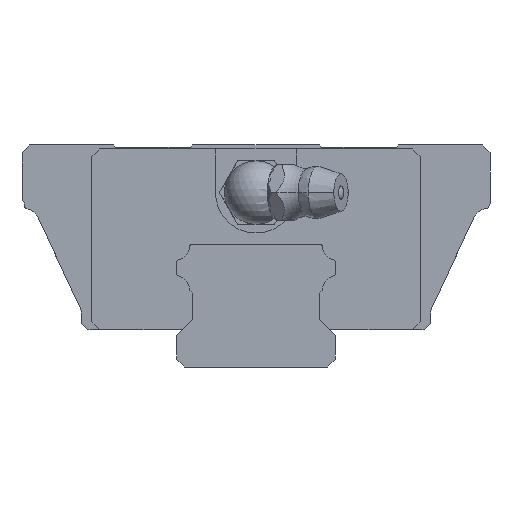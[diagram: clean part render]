
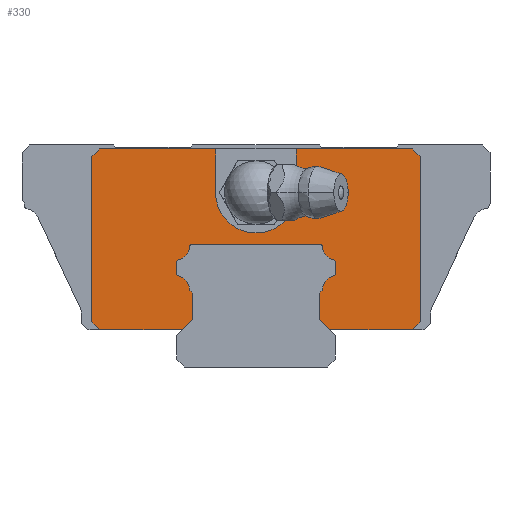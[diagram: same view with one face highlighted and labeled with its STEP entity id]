
A CAD part, front view. The second image highlights one B-rep face of the part: STEP entity #330.
In plain terms, the highlighted planar face has unit normal (0, -1, 0).
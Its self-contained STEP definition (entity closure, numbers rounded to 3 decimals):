
#330=ADVANCED_FACE('',(#759),#760,.T.);
#759=FACE_OUTER_BOUND('',#1288,.T.);
#760=PLANE('',#1289);
#1288=EDGE_LOOP('',(#2883,#2884,#2885,#2886,#2887,#2888,#2889,#2890,#2891,#2892,#2893,#2894,#2895,#2896,#2897,#2898,#2899,#2900,#2901,#2902,#2903,#2904,#2905,#2906,#2907,#2908,#2909,#2910,#2911,#2912,#2913,#2914,#2915));
#1289=AXIS2_PLACEMENT_3D('',#2916,#2917,#2918);
#2883=ORIENTED_EDGE('',*,*,#4089,.F.);
#2884=ORIENTED_EDGE('',*,*,#4074,.F.);
#2885=ORIENTED_EDGE('',*,*,#3825,.F.);
#2886=ORIENTED_EDGE('',*,*,#3878,.F.);
#2887=ORIENTED_EDGE('',*,*,#3998,.F.);
#2888=ORIENTED_EDGE('',*,*,#3963,.F.);
#2889=ORIENTED_EDGE('',*,*,#3960,.F.);
#2890=ORIENTED_EDGE('',*,*,#4055,.F.);
#2891=ORIENTED_EDGE('',*,*,#4094,.F.);
#2892=ORIENTED_EDGE('',*,*,#4095,.F.);
#2893=ORIENTED_EDGE('',*,*,#3864,.F.);
#2894=ORIENTED_EDGE('',*,*,#4052,.F.);
#2895=ORIENTED_EDGE('',*,*,#3780,.F.);
#2896=ORIENTED_EDGE('',*,*,#3806,.F.);
#2897=ORIENTED_EDGE('',*,*,#4057,.F.);
#2898=ORIENTED_EDGE('',*,*,#3829,.F.);
#2899=ORIENTED_EDGE('',*,*,#3984,.F.);
#2900=ORIENTED_EDGE('',*,*,#3846,.F.);
#2901=ORIENTED_EDGE('',*,*,#3814,.F.);
#2902=ORIENTED_EDGE('',*,*,#3823,.F.);
#2903=ORIENTED_EDGE('',*,*,#3870,.F.);
#2904=ORIENTED_EDGE('',*,*,#3949,.F.);
#2905=ORIENTED_EDGE('',*,*,#4096,.F.);
#2906=ORIENTED_EDGE('',*,*,#3956,.T.);
#2907=ORIENTED_EDGE('',*,*,#4067,.T.);
#2908=ORIENTED_EDGE('',*,*,#3659,.T.);
#2909=ORIENTED_EDGE('',*,*,#4030,.T.);
#2910=ORIENTED_EDGE('',*,*,#4097,.F.);
#2911=ORIENTED_EDGE('',*,*,#4040,.F.);
#2912=ORIENTED_EDGE('',*,*,#4090,.F.);
#2913=ORIENTED_EDGE('',*,*,#3981,.F.);
#2914=ORIENTED_EDGE('',*,*,#4014,.F.);
#2915=ORIENTED_EDGE('',*,*,#4070,.F.);
#2916=CARTESIAN_POINT('',(0.0,-19.6,22.0));
#2917=DIRECTION('',(0.0,-1.0,0.0));
#2918=DIRECTION('',(0.0,0.0,-1.0));
#3659=EDGE_CURVE('',#4352,#4356,#4358,.T.);
#3780=EDGE_CURVE('',#4589,#4591,#4592,.T.);
#3806=EDGE_CURVE('',#4630,#4589,#4632,.T.);
#3814=EDGE_CURVE('',#4641,#4643,#4644,.T.);
#3823=EDGE_CURVE('',#4658,#4641,#4660,.T.);
#3825=EDGE_CURVE('',#4662,#4664,#4665,.T.);
#3829=EDGE_CURVE('',#4670,#4672,#4673,.T.);
#3846=EDGE_CURVE('',#4643,#4698,#4699,.T.);
#3864=EDGE_CURVE('',#4729,#4731,#4732,.T.);
#3870=EDGE_CURVE('',#4739,#4658,#4741,.T.);
#3878=EDGE_CURVE('',#4752,#4662,#4754,.T.);
#3949=EDGE_CURVE('',#4879,#4739,#4881,.T.);
#3956=EDGE_CURVE('',#4891,#4889,#4892,.T.);
#3960=EDGE_CURVE('',#4896,#4898,#4899,.T.);
#3963=EDGE_CURVE('',#4898,#4903,#4904,.T.);
#3981=EDGE_CURVE('',#4928,#4926,#4930,.T.);
#3984=EDGE_CURVE('',#4698,#4670,#4933,.T.);
#3998=EDGE_CURVE('',#4903,#4752,#4950,.T.);
#4014=EDGE_CURVE('',#4969,#4928,#4971,.T.);
#4030=EDGE_CURVE('',#4356,#4991,#4993,.T.);
#4040=EDGE_CURVE('',#5006,#5004,#5008,.T.);
#4052=EDGE_CURVE('',#4591,#4729,#5026,.T.);
#4055=EDGE_CURVE('',#5029,#4896,#5031,.T.);
#4057=EDGE_CURVE('',#4672,#4630,#5033,.T.);
#4067=EDGE_CURVE('',#4889,#4352,#5045,.T.);
#4070=EDGE_CURVE('',#5048,#4969,#5050,.T.);
#4074=EDGE_CURVE('',#4664,#5054,#5055,.T.);
#4089=EDGE_CURVE('',#5054,#5048,#5073,.T.);
#4090=EDGE_CURVE('',#4926,#5006,#5074,.T.);
#4094=EDGE_CURVE('',#5077,#5029,#5079,.T.);
#4095=EDGE_CURVE('',#4731,#5077,#5080,.T.);
#4096=EDGE_CURVE('',#4891,#4879,#5081,.T.);
#4097=EDGE_CURVE('',#5004,#4991,#5082,.T.);
#4352=VERTEX_POINT('',#5482);
#4356=VERTEX_POINT('',#5487);
#4358=CIRCLE('',#5490,5.1);
#4589=VERTEX_POINT('',#5811);
#4591=VERTEX_POINT('',#5814);
#4592=LINE('',#5815,#5816);
#4630=VERTEX_POINT('',#5872);
#4632=CIRCLE('',#5875,0.3);
#4641=VERTEX_POINT('',#5887);
#4643=VERTEX_POINT('',#5890);
#4644=LINE('',#5891,#5892);
#4658=VERTEX_POINT('',#5912);
#4660=LINE('',#5915,#5916);
#4662=VERTEX_POINT('',#5918);
#4664=VERTEX_POINT('',#5921);
#4665=CIRCLE('',#5922,1.9);
#4670=VERTEX_POINT('',#5928);
#4672=VERTEX_POINT('',#5931);
#4673=LINE('',#5932,#5933);
#4698=VERTEX_POINT('',#5965);
#4699=LINE('',#5966,#5967);
#4729=VERTEX_POINT('',#6014);
#4731=VERTEX_POINT('',#6017);
#4732=CIRCLE('',#6018,1.9);
#4739=VERTEX_POINT('',#6027);
#4741=LINE('',#6030,#6031);
#4752=VERTEX_POINT('',#6044);
#4754=CIRCLE('',#6047,0.3);
#4879=VERTEX_POINT('',#6224);
#4881=LINE('',#6227,#6228);
#4889=VERTEX_POINT('',#6241);
#4891=VERTEX_POINT('',#6244);
#4892=LINE('',#6245,#6246);
#4896=VERTEX_POINT('',#6252);
#4898=VERTEX_POINT('',#6255);
#4899=CIRCLE('',#6256,1.9);
#4903=VERTEX_POINT('',#6261);
#4904=CIRCLE('',#6262,0.3);
#4926=VERTEX_POINT('',#6295);
#4928=VERTEX_POINT('',#6298);
#4930=LINE('',#6301,#6302);
#4933=LINE('',#6307,#6308);
#4950=LINE('',#6330,#6331);
#4969=VERTEX_POINT('',#6360);
#4971=LINE('',#6363,#6364);
#4991=VERTEX_POINT('',#6404);
#4993=LINE('',#6407,#6408);
#5004=VERTEX_POINT('',#6425);
#5006=VERTEX_POINT('',#6428);
#5008=LINE('',#6431,#6432);
#5026=CIRCLE('',#6457,0.3);
#5029=VERTEX_POINT('',#6460);
#5031=CIRCLE('',#6463,0.3);
#5033=CIRCLE('',#6465,1.9);
#5045=CIRCLE('',#6481,5.1);
#5048=VERTEX_POINT('',#6485);
#5050=LINE('',#6488,#6489);
#5054=VERTEX_POINT('',#6495);
#5055=LINE('',#6496,#6497);
#5073=LINE('',#6524,#6525);
#5074=LINE('',#6526,#6527);
#5077=VERTEX_POINT('',#6531);
#5079=LINE('',#6534,#6535);
#5080=CIRCLE('',#6536,0.3);
#5081=LINE('',#6537,#6538);
#5082=LINE('',#6539,#6540);
#5482=CARTESIAN_POINT('',(0.,-19.6,16.9));
#5487=CARTESIAN_POINT('',(-5.1,-19.6,22.0));
#5490=AXIS2_PLACEMENT_3D('',#7200,#7201,#7202);
#5811=CARTESIAN_POINT('',(10.0,-19.6,11.781));
#5814=CARTESIAN_POINT('',(10.0,-19.6,13.219));
#5815=CARTESIAN_POINT('',(10.0,-19.6,22.0));
#5816=VECTOR('',#7426,1000.0);
#5872=CARTESIAN_POINT('',(9.775,-19.6,11.49));
#5875=AXIS2_PLACEMENT_3D('',#7479,#7480,#7481);
#5887=CARTESIAN_POINT('',(19.7,-19.6,4.7));
#5890=CARTESIAN_POINT('',(9.3,-19.6,4.7));
#5891=CARTESIAN_POINT('',(19.7,-19.6,4.7));
#5892=VECTOR('',#7495,1000.0);
#5912=CARTESIAN_POINT('',(20.7,-19.6,5.7));
#5915=CARTESIAN_POINT('',(20.7,-19.6,5.7));
#5916=VECTOR('',#7506,1000.0);
#5918=CARTESIAN_POINT('',(-9.775,-19.6,11.49));
#5921=CARTESIAN_POINT('',(-8.349,-19.6,9.649));
#5922=AXIS2_PLACEMENT_3D('',#7508,#7509,#7510);
#5928=CARTESIAN_POINT('',(8.0,-19.6,9.3));
#5931=CARTESIAN_POINT('',(8.349,-19.6,9.649));
#5932=CARTESIAN_POINT('',(10.35,-19.6,11.65));
#5933=VECTOR('',#7516,1000.0);
#5965=CARTESIAN_POINT('',(8.0,-19.6,6.));
#5966=CARTESIAN_POINT('',(-4.,-19.6,18.));
#5967=VECTOR('',#7551,1000.0);
#6014=CARTESIAN_POINT('',(9.775,-19.6,13.51));
#6017=CARTESIAN_POINT('',(8.354,-19.6,15.22));
#6018=AXIS2_PLACEMENT_3D('',#7576,#7577,#7578);
#6027=CARTESIAN_POINT('',(20.7,-19.6,26.5));
#6030=CARTESIAN_POINT('',(20.7,-19.6,26.5));
#6031=VECTOR('',#7588,1000.0);
#6044=CARTESIAN_POINT('',(-10.0,-19.6,11.781));
#6047=AXIS2_PLACEMENT_3D('',#7604,#7605,#7606);
#6224=CARTESIAN_POINT('',(19.7,-19.6,27.5));
#6227=CARTESIAN_POINT('',(19.7,-19.6,27.5));
#6228=VECTOR('',#7711,1000.0);
#6241=CARTESIAN_POINT('',(5.1,-19.6,22.0));
#6244=CARTESIAN_POINT('',(5.1,-19.6,27.5));
#6245=CARTESIAN_POINT('',(5.1,-19.6,27.5));
#6246=VECTOR('',#7718,1000.0);
#6252=CARTESIAN_POINT('',(-8.354,-19.6,15.22));
#6255=CARTESIAN_POINT('',(-9.775,-19.6,13.51));
#6256=AXIS2_PLACEMENT_3D('',#7722,#7723,#7724);
#6261=CARTESIAN_POINT('',(-10.0,-19.6,13.219));
#6262=AXIS2_PLACEMENT_3D('',#7729,#7730,#7731);
#6295=CARTESIAN_POINT('',(-20.7,-19.6,5.7));
#6298=CARTESIAN_POINT('',(-19.7,-19.6,4.7));
#6301=CARTESIAN_POINT('',(-19.7,-19.6,4.7));
#6302=VECTOR('',#7757,1000.0);
#6307=CARTESIAN_POINT('',(8.0,-19.6,22.0));
#6308=VECTOR('',#7760,1000.0);
#6330=CARTESIAN_POINT('',(-10.0,-19.6,22.0));
#6331=VECTOR('',#7790,1000.0);
#6360=CARTESIAN_POINT('',(-9.3,-19.6,4.7));
#6363=CARTESIAN_POINT('',(19.7,-19.6,4.7));
#6364=VECTOR('',#7814,1000.0);
#6404=CARTESIAN_POINT('',(-5.1,-19.6,27.5));
#6407=CARTESIAN_POINT('',(-5.1,-19.6,22.0));
#6408=VECTOR('',#7833,1000.0);
#6425=CARTESIAN_POINT('',(-19.7,-19.6,27.5));
#6428=CARTESIAN_POINT('',(-20.7,-19.6,26.5));
#6431=CARTESIAN_POINT('',(-20.7,-19.6,26.5));
#6432=VECTOR('',#7845,1000.0);
#6457=AXIS2_PLACEMENT_3D('',#7865,#7866,#7867);
#6460=CARTESIAN_POINT('',(-8.055,-19.6,15.5));
#6463=AXIS2_PLACEMENT_3D('',#7872,#7873,#7874);
#6465=AXIS2_PLACEMENT_3D('',#7878,#7879,#7880);
#6481=AXIS2_PLACEMENT_3D('',#7900,#7901,#7902);
#6485=CARTESIAN_POINT('',(-8.0,-19.6,6.));
#6488=CARTESIAN_POINT('',(4.,-19.6,18.));
#6489=VECTOR('',#7905,1000.0);
#6495=CARTESIAN_POINT('',(-8.0,-19.6,9.3));
#6496=CARTESIAN_POINT('',(-10.35,-19.6,11.65));
#6497=VECTOR('',#7911,1000.0);
#6524=CARTESIAN_POINT('',(-8.0,-19.6,22.0));
#6525=VECTOR('',#7936,1000.0);
#6526=CARTESIAN_POINT('',(-20.7,-19.6,5.7));
#6527=VECTOR('',#7937,1000.0);
#6531=CARTESIAN_POINT('',(8.055,-19.6,15.5));
#6534=CARTESIAN_POINT('',(0.0,-19.6,15.5));
#6535=VECTOR('',#7943,1000.0);
#6536=AXIS2_PLACEMENT_3D('',#7944,#7945,#7946);
#6537=CARTESIAN_POINT('',(-19.7,-19.6,27.5));
#6538=VECTOR('',#7947,1000.0);
#6539=CARTESIAN_POINT('',(-19.7,-19.6,27.5));
#6540=VECTOR('',#7948,1000.0);
#7200=CARTESIAN_POINT('',(0.0,-19.6,22.0));
#7201=DIRECTION('',(0.0,1.0,0.0));
#7202=DIRECTION('',(-1.0,0.0,0.0));
#7426=DIRECTION('',(0.0,0.0,1.0));
#7479=CARTESIAN_POINT('',(9.7,-19.6,11.781));
#7480=DIRECTION('',(0.0,-1.0,0.0));
#7481=DIRECTION('',(0.0,0.0,-1.0));
#7495=DIRECTION('',(-1.0,0.0,0.0));
#7506=DIRECTION('',(-0.707,0.0,-0.707));
#7508=CARTESIAN_POINT('',(-10.249,-19.6,9.651));
#7509=DIRECTION('',(0.0,1.0,0.0));
#7510=DIRECTION('',(0.0,0.0,-1.0));
#7516=DIRECTION('',(0.707,0.0,0.707));
#7551=DIRECTION('',(-0.707,0.0,0.707));
#7576=CARTESIAN_POINT('',(10.249,-19.6,15.349));
#7577=DIRECTION('',(0.0,1.0,0.0));
#7578=DIRECTION('',(0.0,0.0,-1.0));
#7588=DIRECTION('',(0.0,0.0,-1.0));
#7604=CARTESIAN_POINT('',(-9.7,-19.6,11.781));
#7605=DIRECTION('',(0.0,-1.0,0.0));
#7606=DIRECTION('',(0.0,0.0,-1.0));
#7711=DIRECTION('',(0.707,0.0,-0.707));
#7718=DIRECTION('',(0.0,0.0,-1.0));
#7722=CARTESIAN_POINT('',(-10.249,-19.6,15.349));
#7723=DIRECTION('',(0.0,1.0,0.0));
#7724=DIRECTION('',(0.0,0.0,-1.0));
#7729=CARTESIAN_POINT('',(-9.7,-19.6,13.219));
#7730=DIRECTION('',(0.0,-1.0,0.0));
#7731=DIRECTION('',(0.0,0.0,-1.0));
#7757=DIRECTION('',(-0.707,0.0,0.707));
#7760=DIRECTION('',(0.0,0.0,1.0));
#7790=DIRECTION('',(0.0,0.0,-1.0));
#7814=DIRECTION('',(-1.0,0.0,0.0));
#7833=DIRECTION('',(0.0,0.0,1.0));
#7845=DIRECTION('',(0.707,0.0,0.707));
#7865=CARTESIAN_POINT('',(9.7,-19.6,13.219));
#7866=DIRECTION('',(0.0,-1.0,0.0));
#7867=DIRECTION('',(0.0,0.0,-1.0));
#7872=CARTESIAN_POINT('',(-8.055,-19.6,15.2));
#7873=DIRECTION('',(0.0,-1.0,0.0));
#7874=DIRECTION('',(0.0,0.0,-1.0));
#7878=CARTESIAN_POINT('',(10.249,-19.6,9.651));
#7879=DIRECTION('',(0.0,1.0,0.0));
#7880=DIRECTION('',(0.0,0.0,-1.0));
#7900=CARTESIAN_POINT('',(0.0,-19.6,22.0));
#7901=DIRECTION('',(0.0,1.0,0.0));
#7902=DIRECTION('',(-1.0,0.0,0.0));
#7905=DIRECTION('',(-0.707,0.0,-0.707));
#7911=DIRECTION('',(0.707,0.0,-0.707));
#7936=DIRECTION('',(0.0,0.0,-1.0));
#7937=DIRECTION('',(0.0,0.0,1.0));
#7943=DIRECTION('',(-1.0,0.0,0.0));
#7944=CARTESIAN_POINT('',(8.055,-19.6,15.2));
#7945=DIRECTION('',(0.0,-1.0,0.0));
#7946=DIRECTION('',(0.0,0.0,-1.0));
#7947=DIRECTION('',(1.0,0.0,0.0));
#7948=DIRECTION('',(1.0,0.0,0.0));
